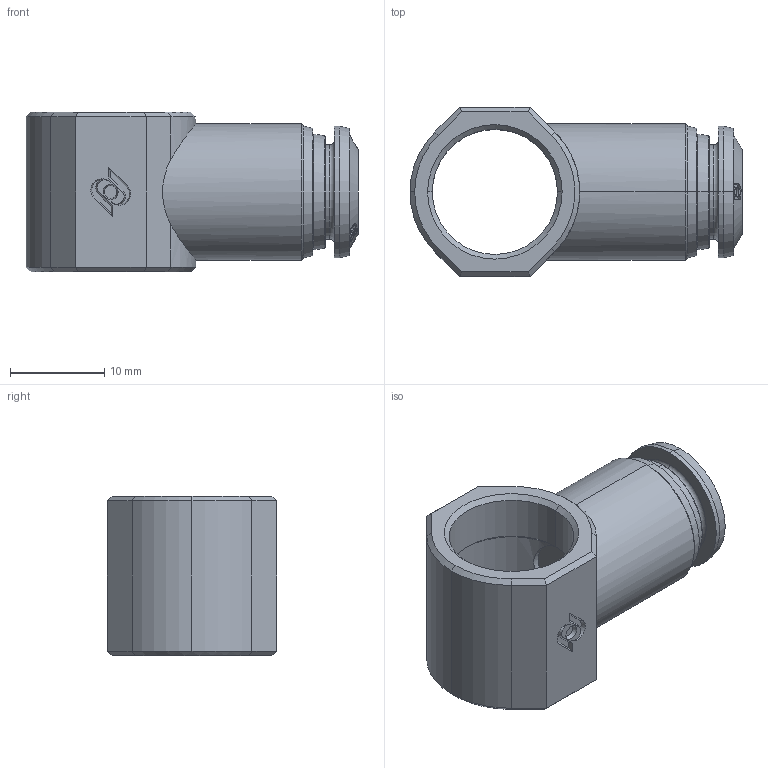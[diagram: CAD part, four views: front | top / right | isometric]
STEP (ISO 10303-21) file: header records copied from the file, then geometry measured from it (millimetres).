
FILE_DESCRIPTION (( 'STEP AP214' ), '1' );
FILE_NAME ('5050000007.step', '2012-10-01T16:52:58', ( '' ), ( '' ), 'SwSTEP 2.0', 'SolidWorks 2012', '' );
FILE_SCHEMA (( 'AUTOMOTIVE_DESIGN' ));
Length unit declared in the file: millimetre
Products named in the file (1): 5050000007
Bounding box: 35.3 x 18 x 17 mm (x, y, z)
Volume: 4252.4 mm3; surface area: 3290.3 mm2
Topology: 1 solids, 2 shells, 260 faces, 637 edges, 405 vertices
Faces by surface type: bspline 111, cone 65, plane 48, cylinder 30, torus 6
Entity records: 16256 total; most frequent: CARTESIAN_POINT 8192, ORIENTED_EDGE 1274, DIRECTION 693, EDGE_CURVE 637, VERTEX_POINT 405, B_SPLINE_CURVE_WITH_KNOTS 361, EDGE_LOOP 288, AXIS2_PLACEMENT_3D 269
